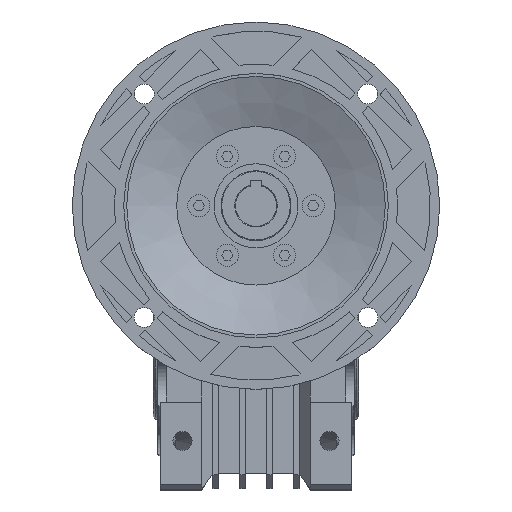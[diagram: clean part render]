
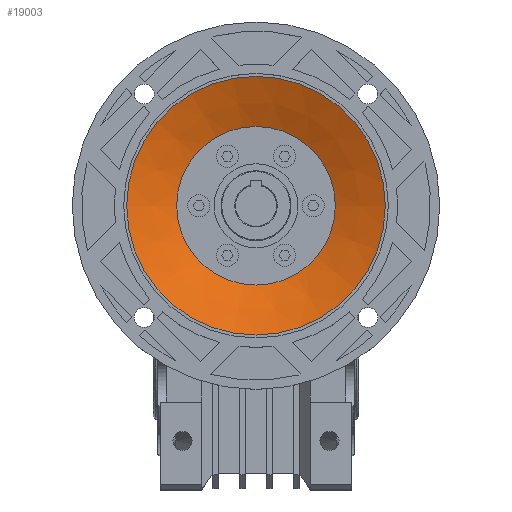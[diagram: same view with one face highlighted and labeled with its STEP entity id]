
A CAD part, top view. The second image highlights one B-rep face of the part: STEP entity #19003.
In plain terms, the highlighted conical face has half-angle 67.999 degrees and reference radius 53.969 mm.
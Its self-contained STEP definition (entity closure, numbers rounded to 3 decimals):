
#53=CONICAL_SURFACE('',#20763,53.969,1.187);
#1871=LINE('',#31451,#3630);
#3630=VECTOR('',#25953,53.969);
#5133=FACE_OUTER_BOUND('',#6307,.T.);
#6307=EDGE_LOOP('',(#16259,#16260,#16261,#16262));
#7026=CIRCLE('',#20750,88.);
#7033=CIRCLE('',#20764,53.969);
#8697=VERTEX_POINT('',#31424);
#8704=VERTEX_POINT('',#31449);
#11228=EDGE_CURVE('',#8697,#8697,#7026,.T.);
#11239=EDGE_CURVE('',#8704,#8704,#7033,.T.);
#11240=EDGE_CURVE('',#8704,#8697,#1871,.T.);
#16259=ORIENTED_EDGE('',*,*,#11239,.T.);
#16260=ORIENTED_EDGE('',*,*,#11240,.T.);
#16261=ORIENTED_EDGE('',*,*,#11228,.F.);
#16262=ORIENTED_EDGE('',*,*,#11240,.F.);
#19003=ADVANCED_FACE('',(#5133),#53,.F.);
#20750=AXIS2_PLACEMENT_3D('',#31425,#25919,#25920);
#20763=AXIS2_PLACEMENT_3D('',#31448,#25949,#25950);
#20764=AXIS2_PLACEMENT_3D('',#31450,#25951,#25952);
#25919=DIRECTION('center_axis',(0.,0.,
-1.));
#25920=DIRECTION('ref_axis',(-1.,0.,0.));
#25949=DIRECTION('center_axis',(0.,0.,
1.));
#25950=DIRECTION('ref_axis',(1.,0.,0.));
#25951=DIRECTION('center_axis',(0.,0.,
-1.));
#25952=DIRECTION('ref_axis',(-1.,0.,0.));
#25953=DIRECTION('',(-0.927,0.,0.375));
#31424=CARTESIAN_POINT('',(-88.,90.,135.25));
#31425=CARTESIAN_POINT('Origin',(0.,90.,135.25));
#31448=CARTESIAN_POINT('Origin',(0.,90.,121.5));
#31449=CARTESIAN_POINT('',(-53.969,90.,121.5));
#31450=CARTESIAN_POINT('Origin',(0.,90.,121.5));
#31451=CARTESIAN_POINT('',(-53.969,90.,121.5));
